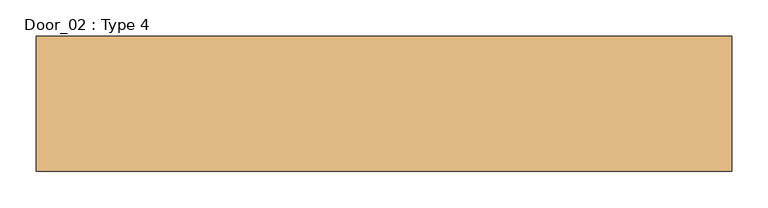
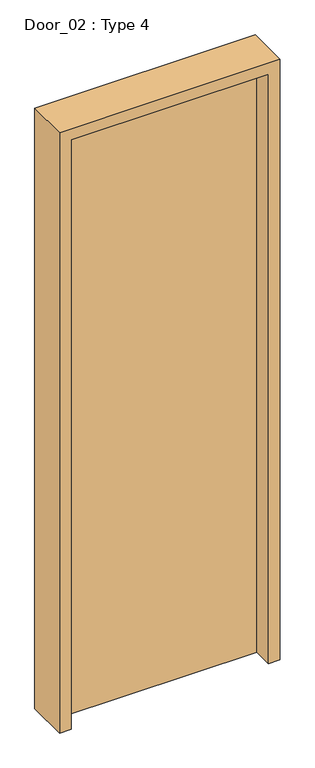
"""IFC4 building model written with IfcOpenShell, lengths in millimetres: door geometry, Door_02 : Type 4."""

from ifc_helpers import new_model, si_unit, frame, origin, origin_with_axes, place, context, project, spatial, polyline, outline, extrude, source, transform, mapped, element, save


def door_02_type_4_94f705d0(model_context):
    return source(origin(), model_context, "Body", "SweptSolid", [
        extrude(outline(polyline([(430.0, 40.9955629), (430.0, -9.0044371), (-430.0, -9.0044371), (-430.0, 40.9955629), (430.0, 40.9955629)])), origin_with_axes(), (0.0, 0.0, 1.0), 2710.0),
        extrude(outline(polyline([(2760.0, -480.0), (0.0, -480.0), (0.0, -430.0), (2710.0, -430.0), (2710.0, 430.0), (0.0, 430.0), (0.0, 480.0), (2760.0, 480.0), (2760.0, -480.0)])), frame((0.0, -97.8375361, 0.0), z_axis=(0.0, 1.0, 0.0), x_axis=(0.0, 0.0, 1.0)), (0.0, 0.0, 1.0), 186.3619312),
    ])


if __name__ == "__main__":
    model = new_model("IFC4")
    model_context = context("Model", 3, world=origin())
    ifc_project = project(units=[si_unit("LENGTHUNIT", "METRE", prefix="MILLI")], contexts=[model_context])
    site = spatial("IfcSite", under=ifc_project)
    building = spatial("IfcBuilding", under=site)
    placement = place(None, origin())
    door_02_type_4_shape = door_02_type_4_94f705d0(model_context)
    element("IfcDoor", 1, ObjectType="Door_02 : Type 4", at=placement, inside=building, context=model_context, shape_type="MappedRepresentation", body=[
        mapped(door_02_type_4_shape, transform((0.0, 0.0, 0.0), x_axis=(1.0, 0.0, 0.0), y_axis=(0.0, 1.0, 0.0), z_axis=(0.0, 0.0, 1.0))),
    ])
    save(model, "model.ifc")
